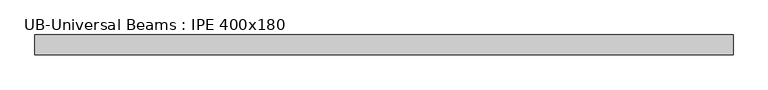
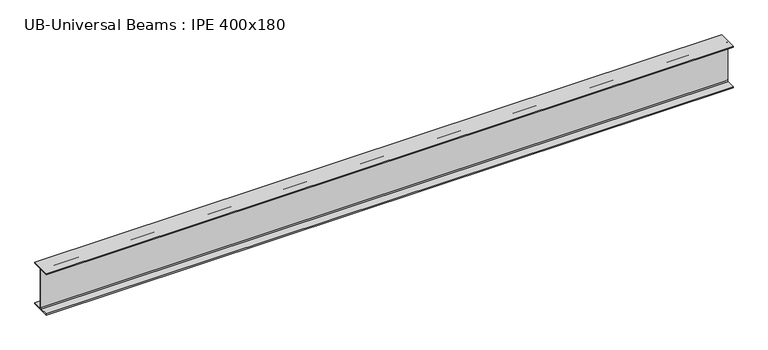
"""IFC4 building model written with IfcOpenShell, lengths in millimetres: beam geometry, UB-Universal Beams : IPE 400x180."""

from ifc_helpers import new_model, si_unit, point, frame, frame_2d, origin, place, context, project, spatial, polyline, circle_curve, trimmed, segment, composite_curve, outline, extrude, source, transform, mapped, element, save


def ub_universal_beams_ipe_400x180_7c40678e(model_context):
    return source(origin(), model_context, "Body", "SweptSolid", [
        extrude(outline(composite_curve([segment(polyline([(-90.0, -189.8), (-11.9, -189.8)]), True, "CONTINUOUS"), segment(trimmed(circle_curve(frame_2d((-11.9, -180.9)), 8.9), [point((-11.9, -189.8))], [point((-3.0, -180.9))], True, "CARTESIAN"), True, "CONTINUOUS"), segment(polyline([(-3.0, -180.9), (-3.0, 180.9)]), True, "CONTINUOUS"), segment(trimmed(circle_curve(frame_2d((-11.9, 180.9)), 8.9), [point((-3.0, 180.9))], [point((-11.9, 189.8))], True, "CARTESIAN"), True, "CONTINUOUS"), segment(polyline([(-11.9, 189.8), (-90.0, 189.8), (-90.0, 200.0), (90.0, 200.0), (90.0, 189.8), (11.9, 189.8)]), True, "CONTINUOUS"), segment(trimmed(circle_curve(frame_2d((11.9, 180.9)), 8.9), [point((11.9, 189.8))], [point((3.0, 180.9))], True, "CARTESIAN"), True, "CONTINUOUS"), segment(polyline([(3.0, 180.9), (3.0, -180.9)]), True, "CONTINUOUS"), segment(trimmed(circle_curve(frame_2d((11.9, -180.9)), 8.9), [point((3.0, -180.9))], [point((11.9, -189.8))], True, "CARTESIAN"), True, "CONTINUOUS"), segment(polyline([(11.9, -189.8), (90.0, -189.8), (90.0, -200.0), (-90.0, -200.0), (-90.0, -189.8)]), True, "CONTINUOUS")], self_intersect=False)), frame((-3077.55, 0.0, 0.0), z_axis=(1.0, 0.0, 0.0), x_axis=(0.0, 1.0, 0.0)), (0.0, 0.0, 1.0), 6277.4071339),
    ])


if __name__ == "__main__":
    model = new_model("IFC4")
    model_context = context("Model", 3, world=origin())
    ifc_project = project(units=[si_unit("LENGTHUNIT", "METRE", prefix="MILLI")], contexts=[model_context])
    site = spatial("IfcSite", under=ifc_project)
    building = spatial("IfcBuilding", under=site)
    placement = place(None, origin())
    ub_universal_beams_ipe_400x180_shape = ub_universal_beams_ipe_400x180_7c40678e(model_context)
    element("IfcBeam", 1, ObjectType="UB-Universal Beams : IPE 400x180", at=placement, inside=building, context=model_context, shape_type="MappedRepresentation", body=[
        mapped(ub_universal_beams_ipe_400x180_shape, transform((0.0, 0.0, 0.0), x_axis=(1.0, 0.0, 0.0), y_axis=(0.0, 1.0, 0.0), z_axis=(0.0, 0.0, 1.0))),
    ])
    save(model, "model.ifc")
